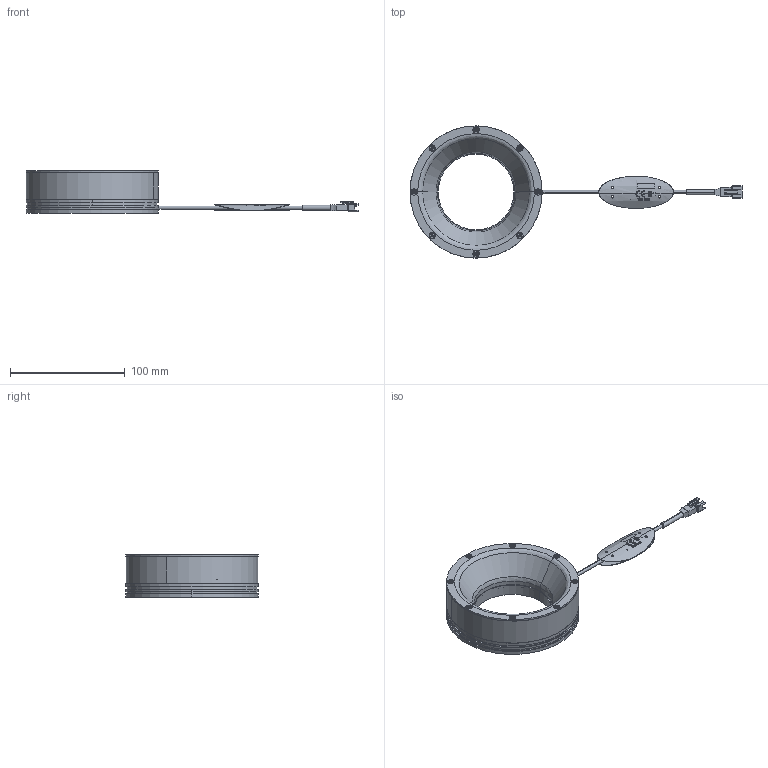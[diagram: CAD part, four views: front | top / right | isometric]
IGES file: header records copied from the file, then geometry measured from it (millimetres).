
Start section: 3D InterOp IGES (v. 2019 1.0.2), Spatial Corp. Copyright (c) 1999-2017.
Global section: file name: VMR-11566_DRAWING_3D.iges; native system: Spatial Corp.; preprocessor: 3D InterOp ACIS/IGES; author: Noname; organization: Noname; date: 20230913.095602; units: millimetre
Bounding box: 289 x 115 x 37.44 mm (x, y, z)
Surface area: 104978.5 mm2 (no closed solid volume)
Topology: 0 solids, 0 shells, 936 faces, 4960 edges, 4887 vertices
Faces by surface type: extrusion 501, revolution 429, bspline 6
